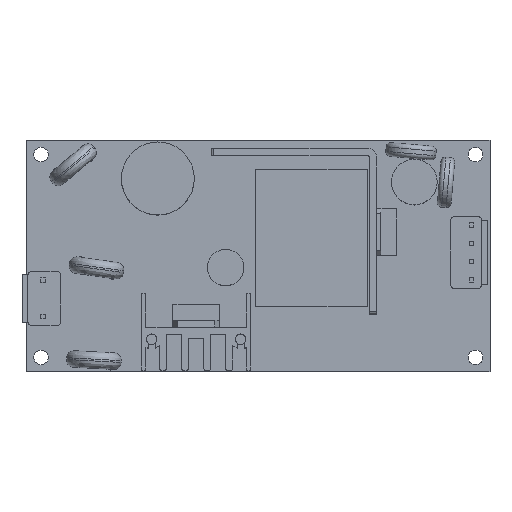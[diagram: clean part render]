
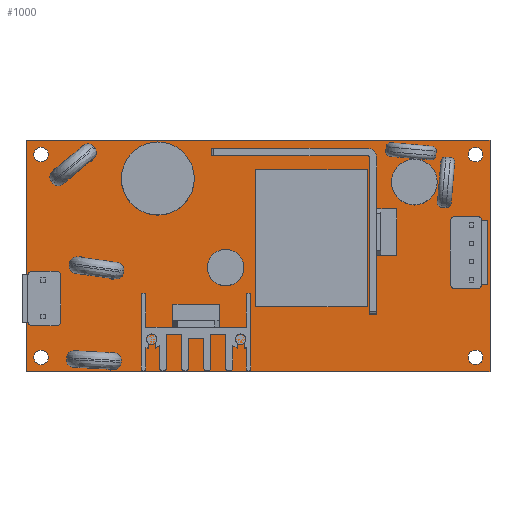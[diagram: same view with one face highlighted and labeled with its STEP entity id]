
A CAD part, top view. The second image highlights one B-rep face of the part: STEP entity #1000.
In plain terms, the highlighted planar face has unit normal (0, 0, 1).
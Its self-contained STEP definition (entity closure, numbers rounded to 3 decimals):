
#10=CARTESIAN_POINT('',(0.,0.,0.));
#20=DIRECTION('',(0.,0.,1.));
#30=DIRECTION('',(1.,0.,0.));
#40=AXIS2_PLACEMENT_3D('',#10,#20,#30);
#50=PLANE('',#40);
#60=CARTESIAN_POINT('',(-0.,0.,-0.));
#70=DIRECTION('',(0.,-1.,0.));
#80=VECTOR('',#70,1.);
#90=LINE('',#60,#80);
#100=CARTESIAN_POINT('',(-0.,50.8,-0.));
#110=VERTEX_POINT('',#100);
#120=CARTESIAN_POINT('',(0.,0.,0.));
#130=VERTEX_POINT('',#120);
#140=EDGE_CURVE('',#110,#130,#90,.T.);
#150=ORIENTED_EDGE('',*,*,#140,.T.);
#160=CARTESIAN_POINT('',(0.,50.8,0.));
#170=DIRECTION('',(-1.,0.,0.));
#180=VECTOR('',#170,1.);
#190=LINE('',#160,#180);
#200=CARTESIAN_POINT('',(101.6,50.8,0.));
#210=VERTEX_POINT('',#200);
#220=EDGE_CURVE('',#210,#110,#190,.T.);
#230=ORIENTED_EDGE('',*,*,#220,.T.);
#240=CARTESIAN_POINT('',(101.6,0.,0.));
#250=DIRECTION('',(0.,1.,0.));
#260=VECTOR('',#250,1.);
#270=LINE('',#240,#260);
#280=CARTESIAN_POINT('',(101.6,0.,0.));
#290=VERTEX_POINT('',#280);
#300=EDGE_CURVE('',#290,#210,#270,.T.);
#310=ORIENTED_EDGE('',*,*,#300,.T.);
#320=CARTESIAN_POINT('',(0.,0.,0.));
#330=DIRECTION('',(1.,0.,-0.));
#340=VECTOR('',#330,1.);
#350=LINE('',#320,#340);
#360=EDGE_CURVE('',#130,#290,#350,.T.);
#370=ORIENTED_EDGE('',*,*,#360,.T.);
#380=EDGE_LOOP('',(#370,#310,#230,#150));
#390=FACE_OUTER_BOUND('',#380,.T.);
#400=CARTESIAN_POINT('',(3.175,3.175,0.));
#410=DIRECTION('',(0.,0.,1.));
#420=DIRECTION('',(1.,0.,0.));
#430=AXIS2_PLACEMENT_3D('',#400,#410,#420);
#440=CIRCLE('',#430,1.6);
#450=CARTESIAN_POINT('',(1.575,3.175,0.));
#460=VERTEX_POINT('',#450);
#470=CARTESIAN_POINT('',(4.775,3.175,0.));
#480=VERTEX_POINT('',#470);
#490=EDGE_CURVE('',#460,#480,#440,.T.);
#500=ORIENTED_EDGE('',*,*,#490,.F.);
#510=EDGE_CURVE('',#480,#460,#440,.T.);
#520=ORIENTED_EDGE('',*,*,#510,.F.);
#530=EDGE_LOOP('',(#520,#500));
#540=FACE_BOUND('',#530,.T.);
#550=CARTESIAN_POINT('',(3.175,47.625,0.));
#560=DIRECTION('',(0.,0.,1.));
#570=DIRECTION('',(1.,0.,0.));
#580=AXIS2_PLACEMENT_3D('',#550,#560,#570);
#590=CIRCLE('',#580,1.6);
#600=CARTESIAN_POINT('',(4.775,47.625,0.));
#610=VERTEX_POINT('',#600);
#620=CARTESIAN_POINT('',(1.575,47.625,0.));
#630=VERTEX_POINT('',#620);
#640=EDGE_CURVE('',#610,#630,#590,.T.);
#650=ORIENTED_EDGE('',*,*,#640,.F.);
#660=EDGE_CURVE('',#630,#610,#590,.T.);
#670=ORIENTED_EDGE('',*,*,#660,.F.);
#680=EDGE_LOOP('',(#670,#650));
#690=FACE_BOUND('',#680,.T.);
#700=CARTESIAN_POINT('',(98.425,47.625,0.));
#710=DIRECTION('',(0.,0.,1.));
#720=DIRECTION('',(1.,0.,0.));
#730=AXIS2_PLACEMENT_3D('',#700,#710,#720);
#740=CIRCLE('',#730,1.6);
#750=CARTESIAN_POINT('',(96.825,47.625,0.));
#760=VERTEX_POINT('',#750);
#770=CARTESIAN_POINT('',(100.025,47.625,0.));
#780=VERTEX_POINT('',#770);
#790=EDGE_CURVE('',#760,#780,#740,.T.);
#800=ORIENTED_EDGE('',*,*,#790,.F.);
#810=EDGE_CURVE('',#780,#760,#740,.T.);
#820=ORIENTED_EDGE('',*,*,#810,.F.);
#830=EDGE_LOOP('',(#820,#800));
#840=FACE_BOUND('',#830,.T.);
#850=CARTESIAN_POINT('',(98.425,3.175,0.));
#860=DIRECTION('',(0.,0.,1.));
#870=DIRECTION('',(1.,0.,0.));
#880=AXIS2_PLACEMENT_3D('',#850,#860,#870);
#890=CIRCLE('',#880,1.6);
#900=CARTESIAN_POINT('',(96.825,3.175,0.));
#910=VERTEX_POINT('',#900);
#920=CARTESIAN_POINT('',(100.025,3.175,0.));
#930=VERTEX_POINT('',#920);
#940=EDGE_CURVE('',#910,#930,#890,.T.);
#950=ORIENTED_EDGE('',*,*,#940,.F.);
#960=EDGE_CURVE('',#930,#910,#890,.T.);
#970=ORIENTED_EDGE('',*,*,#960,.F.);
#980=EDGE_LOOP('',(#970,#950));
#990=FACE_BOUND('',#980,.T.);
#1000=ADVANCED_FACE('',(#390,#540,#690,#840,#990),#50,.T.);
